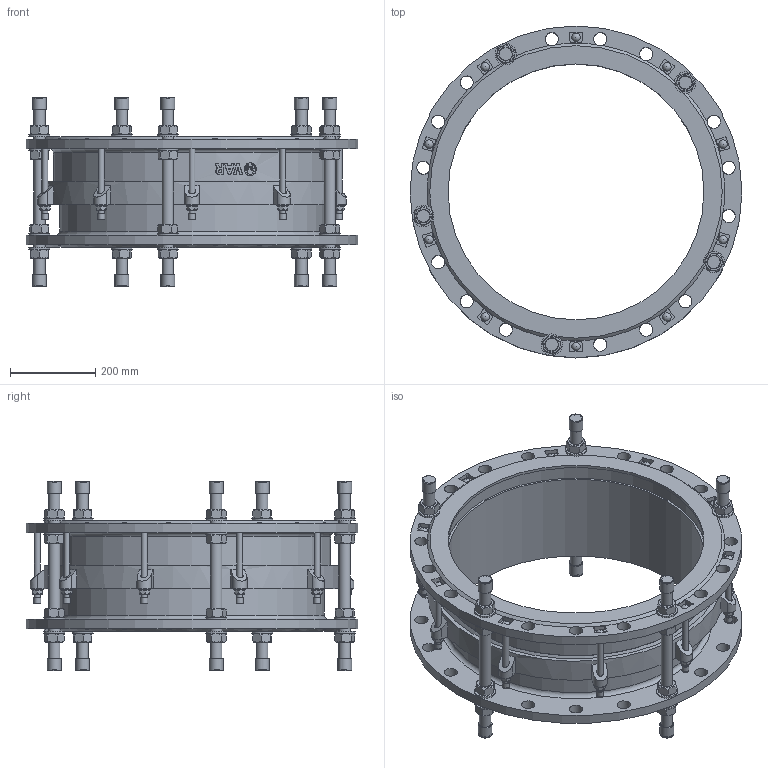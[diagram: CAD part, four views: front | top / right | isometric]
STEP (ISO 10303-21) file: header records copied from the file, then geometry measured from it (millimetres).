
FILE_DESCRIPTION(('STEP AP242'), '1');
FILE_NAME('Ìîíòàæíàÿ âñòàâêà', '', ('UNSPECIFIED'), ('UNSPECIFIED'), 'C3D Converter', 'C3D Toolkit', '');
FILE_SCHEMA(('AP242_MANAGED_MODEL_BASED_3D_ENGINEERING_MIM_LF { 1 0 10303 442 1 1 4 }'));
Length unit declared in the file: millimetre
Products named in the file (13): ШМ.М16.310
Assembly tree (99 placements, depth 2):
  (unnamed)
    (unnamed)
    (unnamed)
    (unnamed)
    (unnamed)  x20
    (unnamed)  x20
    ШМ.М16.310  x5
    (unnamed)  x10
    (unnamed)
    (unnamed)  x10
    (unnamed)  x10
    (unnamed)  x10
    (unnamed)  x10
Bounding box: 778 x 778 x 445.4 mm (x, y, z)
Volume: 19942280.3 mm3; surface area: 3359934.6 mm2
Topology: 99 solids, 99 shells, 1112 faces, 2520 edges, 1601 vertices
Faces by surface type: plane 656, cylinder 267, cone 146, torus 22, extrusion 11, sphere 10
Full cylindrical faces by diameter (mm): 14 x30, 15 x10, 16 x10, 16.8 x10, 27 x35, 28 x30, 30.201 x1, 31 x40, 32.4 x10, 50 x20, 600 x2, 620 x2, 630 x2, 650 x1, 670 x1, 674 x1, 694 x1, 778 x2
Entity records: 24364 total; most frequent: CARTESIAN_POINT 11568, DIRECTION 2122, ORIENTED_EDGE 1926, EDGE_CURVE 963, AXIS2_PLACEMENT_3D 846, VERTEX_POINT 696, EDGE_LOOP 591, FACE_BOUND 449
